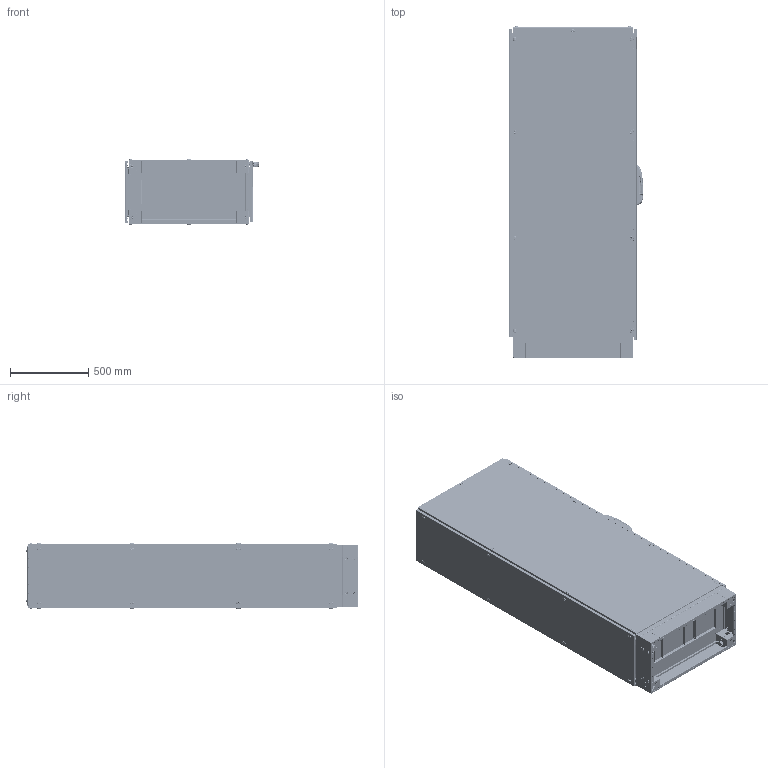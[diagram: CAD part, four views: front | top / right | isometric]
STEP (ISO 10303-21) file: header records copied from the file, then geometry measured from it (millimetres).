
FILE_DESCRIPTION (( 'STEP AP203' ), '1' );
FILE_NAME ('704.208 400x2000x800.STEP', '2020-04-04T13:43:26', ( '' ), ( '' ), 'SwSTEP 2.0', 'SolidWorks 2019', '' );
FILE_SCHEMA (( 'CONFIG_CONTROL_DESIGN' ));
Length unit declared in the file: millimetre
Products named in the file (127): flat head screw_am_B18.6.7M - M6 x 1.0 x 20 Type I Cross Recessed FHMS --20N; BOYUNA DELIKLI PROFIL_2000; BAZA KÖÞES_SOL; mentese bakýr kapak 09-201; M6 HAVÞA PLASTÝK CÝVATA; M6 KAFES SOMU2015; 252016-2; 03-2012 sac kilit dil 10-2010 ORTA; L KOSE DESTEKorj1; on Kapi 10-2017 2 mm dkp_PP 17.1093 400x2000; yan arka kapak baglantý saci; kapali dikey profilkenetli_ita oluklu10-aaaaaaaaaaaa-1_2000 ; MP 18.7631 204 handle REV04 tekpan logo; MP 14.0007 M6 PLASTÝK HAVSA; V2 -2011 DT BAZA KAPAGI ON_PP 12.0044 - 400; yan arka kapak baglantý saci orta; TEOS Kilit Üst Çubuk_2000--MP 16.0130; MP 18.7631 yddk_tozkapagi; 03-KOSE PUNT_PP 12.0027; PB 14.0004 M6 HAVÞA PLASTÝK CÝVATA; kapali dikey profilkenetli_ita oluklu10-aaaaaaaaaaaa-1_400; V3 -2011 DT BAZA KAPAGI yan_PP 12.0052 - 800; TEOS SIDE PANEL_706.208 2000X800; M8 KAFES SOMUN_m8; kose rondela kabartmaSIZ 12; TEOS V2 BAZA S嵞TEM廆400X800; somu; Teos-Neo MP Durdurucu; 704.208 400x2000x800; TEOS-NEO MP Sag Dayama; MP 18.7631 32002136; Teos-Neo MP Durdurucu Destek; 03-TABAN SACI SURGU_PP 12.0029 - 400; M8 Somun Kafesi_m8; socket button head cap screw_am_B18.3.4M - 8 x 1.25 x 16 SBHCS --N; pan head cross recess screw_iso_ISO 7045 - M5 x 10 - Z --- 10C; V2 BAZA KOSESI2015_100; MP 11.0195 montaj plakasý m8takoz1VER3 NEO26-12; pan cross head_am1_B18.6.7M - M5 x 0.8 x 10 Type I Cross Recessed PHMS --10N; MP 11.0140 TEOS ALUMINYUM KOSE APPROVED 16.08.2010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
Assembly tree (392 placements, depth 7):
  704.208 400x2000x800
    TEOS iskelet_400x2000x800
      kapali dikey profilkenetli_ita oluklu10-aaaaaaaaaaaa-1_2000   x4
      kapali dikey profilkenetli_ita oluklu10-aaaaaaaaaaaa-1_800  x4
      kapali dikey profilkenetli_ita oluklu10-aaaaaaaaaaaa-1_400  x4
      L KOSE DESTEKorj1  x8
      kose rondela kabartmaSIZ 10  x15
      kose rondela kabartmaSIZ 12
      MP 11.0140 TEOS ALUMINYUM KOSE APPROVED 16.08.2010  x8
      M5 DÝKEY PROFÝL RONDELA  x16
      percinli taban-vidalý kapak-kose pls yok_701.480-40X80 ALT
        03-taban genislik percinli 04 - 2012 100-120_PP 12.0018 - 400  x2
        03taban derinlik percinli_PP 12.0026 - 800  x2
        03-KOSE PUNT_PP 12.0027
        03-KOSE PUNT
        Mirror03-KOSE PUNT  x2
        TEOS V2 BAZA S嵞TEM廆400X800
          BAZA KÖÞES_SAG
            V2 BAZA KOSESI2015_100
            BAZA SISTEMIV2-6 baza kapaðý201550x40_TEKPAN LOGOLU
            M6 KAFES SOMU2015
              kafes somun kafes
              somu
            M6 KAFES SOMU2015
              kafes somun kafes
              somu
          V2 -2011 DT BAZA KAPAGI ON_PP 12.0044 - 400  x2
          BAZA KÖÞES_SOL
            V2 BAZA KOSESI2015_100
            BAZA SISTEMIV2-6 baza kapaðý201550x40
            M6 KAFES SOMU2015
              kafes somun kafes
              somu
            M6 KAFES SOMU2015
              kafes somun kafes
              somu
          BAZA KÖÞES_SAG
            V2 BAZA KOSESI2015_100
            BAZA SISTEMIV2-6 baza kapaðý201550x40_TEKPAN LOGOLU
            M6 KAFES SOMU2015
              kafes somun kafes
              somu
            M6 KAFES SOMU2015
              kafes somun kafes
              somu
          BAZA KÖÞES_SOL
            V2 BAZA KOSESI2015_100
            BAZA SISTEMIV2-6 baza kapaðý201550x40
            M6 KAFES SOMU2015
              kafes somun kafes
              somu
            M6 KAFES SOMU2015
              kafes somun kafes
              somu
          V3 -2011 DT BAZA KAPAGI yan_PP 12.0052 - 800  x2
          flat head screw_am_B18.6.7M - M6 x 1.0 x 20 Type I Cross Recessed FHMS --20N  x8
        03-TABAN SACI SURGU_PP 12.0029 - 400  x2
        03-TABAN SACI U1 04-2012_PP 12.0039 - 400-75
        03-TABAN SACI U1 04-2012_PP 12.0034 - 400-200  x2
        mp aLT DAYAMA_PP 12.0094 - 800  x2
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Bounding box: 858.09 x 2117.1 x 418.87 mm (x, y, z)
Volume: 18562349.5 mm3; surface area: 20487300.7 mm2
Topology: 337 solids, 377 shells, 51622 faces, 139991 edges, 88818 vertices
Faces by surface type: plane 32882, cylinder 13793, bspline 2211, torus 1155, cone 972, sphere 609
Entity records: 709546 total; most frequent: CARTESIAN_POINT 295564, ORIENTED_EDGE 84162, DIRECTION 77562, EDGE_CURVE 42081, VECTOR 28176, LINE 28176, VERTEX_POINT 26942, AXIS2_PLACEMENT_3D 24693
